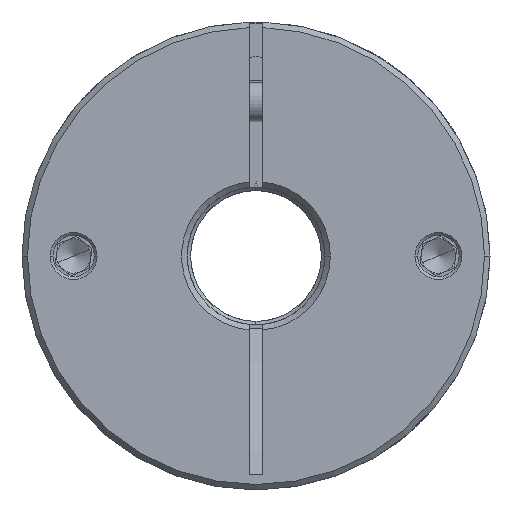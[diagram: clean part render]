
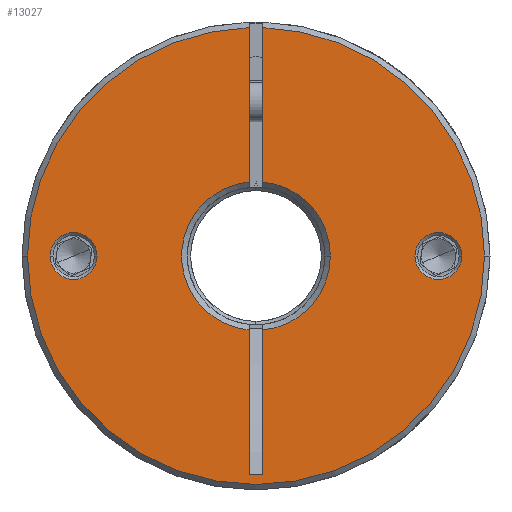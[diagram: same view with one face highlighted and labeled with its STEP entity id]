
A CAD part, front view. The second image highlights one B-rep face of the part: STEP entity #13027.
In plain terms, the highlighted planar face has unit normal (0, -1, 0).
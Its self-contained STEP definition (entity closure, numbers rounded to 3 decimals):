
#38 = EDGE_CURVE ( 'NONE', #5054, #81, #582, .T. ) ;
#81 = VERTEX_POINT ( 'NONE', #6558 ) ;
#327 = DIRECTION ( 'NONE',  ( 0., -1., 0. ) ) ;
#376 = CARTESIAN_POINT ( 'NONE',  ( -2.735, -47.045, 68. ) ) ;
#386 = ORIENTED_EDGE ( 'NONE', *, *, #10544, .T. ) ;
#582 = CIRCLE ( 'NONE', #6469, 33.2 ) ;
#590 = CARTESIAN_POINT ( 'NONE',  ( 30.465, -47.045, 68. ) ) ;
#609 = CARTESIAN_POINT ( 'NONE',  ( -1.735, -47.045, 36.279 ) ) ;
#893 = CARTESIAN_POINT ( 'NONE',  ( -32.635, -47.045, 68. ) ) ;
#1049 = LINE ( 'NONE', #7185, #2537 ) ;
#1335 = EDGE_CURVE ( 'NONE', #12468, #4379, #3639, .T. ) ;
#1768 = CARTESIAN_POINT ( 'NONE',  ( -2.735, -47.045, 68. ) ) ;
#1780 = DIRECTION ( 'NONE',  ( 0., 0., -1. ) ) ;
#1894 = LINE ( 'NONE', #3940, #13245 ) ;
#2021 = AXIS2_PLACEMENT_3D ( 'NONE', #12887, #4381, #4425 ) ;
#2029 = CARTESIAN_POINT ( 'NONE',  ( -2.735, -47.045, 68. ) ) ;
#2053 = EDGE_CURVE ( 'NONE', #9158, #8721, #5413, .T. ) ;
#2097 = DIRECTION ( 'NONE',  ( 1., 0., 0. ) ) ;
#2209 = LINE ( 'NONE', #7154, #5802 ) ;
#2380 = CARTESIAN_POINT ( 'NONE',  ( -25.835, -47.045, 68. ) ) ;
#2504 = DIRECTION ( 'NONE',  ( 0., 0., -1. ) ) ;
#2537 = VECTOR ( 'NONE', #10545, 1000. ) ;
#2644 = LINE ( 'NONE', #2700, #10359 ) ;
#2700 = CARTESIAN_POINT ( 'NONE',  ( -1.735, -47.045, 68. ) ) ;
#2742 = EDGE_CURVE ( 'NONE', #10722, #8253, #2644, .T. ) ;
#2841 = CARTESIAN_POINT ( 'NONE',  ( -3.735, -47.045, 101.185 ) ) ;
#2857 = EDGE_CURVE ( 'NONE', #81, #9158, #5561, .T. ) ;
#2880 = CARTESIAN_POINT ( 'NONE',  ( -29.235, -47.045, 68. ) ) ;
#3142 = CIRCLE ( 'NONE', #8521, 10.8 ) ;
#3349 = CIRCLE ( 'NONE', #3661, 10.8 ) ;
#3639 = CIRCLE ( 'NONE', #4671, 3.4 ) ;
#3647 = DIRECTION ( 'NONE',  ( 0., 0., -1. ) ) ;
#3661 = AXIS2_PLACEMENT_3D ( 'NONE', #8808, #8711, #10844 ) ;
#3923 = CARTESIAN_POINT ( 'NONE',  ( -29.235, -47.045, 68. ) ) ;
#3940 = CARTESIAN_POINT ( 'NONE',  ( -3.735, -47.045, 68. ) ) ;
#4065 = ORIENTED_EDGE ( 'NONE', *, *, #6356, .T. ) ;
#4313 = DIRECTION ( 'NONE',  ( 0., -1., 0. ) ) ;
#4379 = VERTEX_POINT ( 'NONE', #2380 ) ;
#4381 = DIRECTION ( 'NONE',  ( 0., 1., 0. ) ) ;
#4425 = DIRECTION ( 'NONE',  ( 1., 0., 0. ) ) ;
#4563 = ORIENTED_EDGE ( 'NONE', *, *, #6066, .T. ) ;
#4671 = AXIS2_PLACEMENT_3D ( 'NONE', #3923, #10437, #8394 ) ;
#4708 = ORIENTED_EDGE ( 'NONE', *, *, #7015, .T. ) ;
#4832 = ORIENTED_EDGE ( 'NONE', *, *, #8655, .T. ) ;
#4866 = CARTESIAN_POINT ( 'NONE',  ( 8.065, -47.045, 68. ) ) ;
#5054 = VERTEX_POINT ( 'NONE', #2841 ) ;
#5065 = EDGE_LOOP ( 'NONE', ( #10133, #8074 ) ) ;
#5108 = CARTESIAN_POINT ( 'NONE',  ( -3.735, -47.045, 78.754 ) ) ;
#5114 = CARTESIAN_POINT ( 'NONE',  ( -2.735, -47.045, 68. ) ) ;
#5145 = CARTESIAN_POINT ( 'NONE',  ( -2.735, -47.045, 68. ) ) ;
#5171 = EDGE_CURVE ( 'NONE', #7116, #11262, #1894, .T. ) ;
#5204 = DIRECTION ( 'NONE',  ( 0., 1., 0. ) ) ;
#5272 = DIRECTION ( 'NONE',  ( 1., 0., 0. ) ) ;
#5413 = CIRCLE ( 'NONE', #8543, 33.2 ) ;
#5555 = ORIENTED_EDGE ( 'NONE', *, *, #7952, .T. ) ;
#5561 = CIRCLE ( 'NONE', #12271, 33.2 ) ;
#5802 = VECTOR ( 'NONE', #7198, 1000. ) ;
#5937 = DIRECTION ( 'NONE',  ( 0., -1., 0. ) ) ;
#5938 = DIRECTION ( 'NONE',  ( 1., 0., 0. ) ) ;
#6066 = EDGE_CURVE ( 'NONE', #12548, #9129, #3349, .T. ) ;
#6196 = CARTESIAN_POINT ( 'NONE',  ( -1.735, -47.045, 78.754 ) ) ;
#6238 = CIRCLE ( 'NONE', #2021, 3.4 ) ;
#6295 = FACE_BOUND ( 'NONE', #11127, .T. ) ;
#6347 = CARTESIAN_POINT ( 'NONE',  ( -3.735, -47.045, 36.279 ) ) ;
#6356 = EDGE_CURVE ( 'NONE', #8253, #11262, #2209, .T. ) ;
#6469 = AXIS2_PLACEMENT_3D ( 'NONE', #376, #327, #11731 ) ;
#6558 = CARTESIAN_POINT ( 'NONE',  ( -35.935, -47.045, 68. ) ) ;
#6705 = DIRECTION ( 'NONE',  ( 0., 1., 0. ) ) ;
#6830 = LINE ( 'NONE', #11002, #12131 ) ;
#6897 = AXIS2_PLACEMENT_3D ( 'NONE', #5145, #12520, #9452 ) ;
#6899 = EDGE_CURVE ( 'NONE', #5054, #12425, #1049, .T. ) ;
#7015 = EDGE_CURVE ( 'NONE', #8865, #9132, #8759, .T. ) ;
#7043 = EDGE_LOOP ( 'NONE', ( #13234, #12956, #12323, #10295, #386, #4563, #13127, #10464, #4065, #12737, #4832 ) ) ;
#7046 = EDGE_CURVE ( 'NONE', #9129, #10722, #10069, .T. ) ;
#7109 = DIRECTION ( 'NONE',  ( 1., 0., 0. ) ) ;
#7116 = VERTEX_POINT ( 'NONE', #12689 ) ;
#7154 = CARTESIAN_POINT ( 'NONE',  ( -3.735, -47.045, 36.279 ) ) ;
#7185 = CARTESIAN_POINT ( 'NONE',  ( -3.735, -47.045, 68. ) ) ;
#7198 = DIRECTION ( 'NONE',  ( -1., 0., 0. ) ) ;
#7683 = CARTESIAN_POINT ( 'NONE',  ( 23.765, -47.045, 68. ) ) ;
#7776 = DIRECTION ( 'NONE',  ( 1., 0., 0. ) ) ;
#7952 = EDGE_CURVE ( 'NONE', #9132, #8865, #6238, .T. ) ;
#8074 = ORIENTED_EDGE ( 'NONE', *, *, #1335, .T. ) ;
#8253 = VERTEX_POINT ( 'NONE', #609 ) ;
#8353 = CARTESIAN_POINT ( 'NONE',  ( -2.735, -47.045, 68. ) ) ;
#8394 = DIRECTION ( 'NONE',  ( 1., 0., 0. ) ) ;
#8521 = AXIS2_PLACEMENT_3D ( 'NONE', #5114, #5204, #2097 ) ;
#8543 = AXIS2_PLACEMENT_3D ( 'NONE', #8353, #4313, #5272 ) ;
#8655 = EDGE_CURVE ( 'NONE', #7116, #12425, #3142, .T. ) ;
#8711 = DIRECTION ( 'NONE',  ( 0., 1., 0. ) ) ;
#8721 = VERTEX_POINT ( 'NONE', #9524 ) ;
#8759 = CIRCLE ( 'NONE', #11159, 3.4 ) ;
#8808 = CARTESIAN_POINT ( 'NONE',  ( -2.735, -47.045, 68. ) ) ;
#8865 = VERTEX_POINT ( 'NONE', #9795 ) ;
#8933 = FACE_OUTER_BOUND ( 'NONE', #7043, .T. ) ;
#8999 = CIRCLE ( 'NONE', #12083, 3.4 ) ;
#9039 = CARTESIAN_POINT ( 'NONE',  ( 20.365, -47.045, 68. ) ) ;
#9129 = VERTEX_POINT ( 'NONE', #4866 ) ;
#9132 = VERTEX_POINT ( 'NONE', #9039 ) ;
#9142 = CARTESIAN_POINT ( 'NONE',  ( -1.735, -47.045, 57.246 ) ) ;
#9158 = VERTEX_POINT ( 'NONE', #590 ) ;
#9364 = DIRECTION ( 'NONE',  ( 0., -1., 0. ) ) ;
#9452 = DIRECTION ( 'NONE',  ( 1., 0., 0. ) ) ;
#9524 = CARTESIAN_POINT ( 'NONE',  ( -1.735, -47.045, 101.185 ) ) ;
#9795 = CARTESIAN_POINT ( 'NONE',  ( 27.165, -47.045, 68. ) ) ;
#10069 = CIRCLE ( 'NONE', #6897, 10.8 ) ;
#10133 = ORIENTED_EDGE ( 'NONE', *, *, #10185, .T. ) ;
#10185 = EDGE_CURVE ( 'NONE', #4379, #12468, #8999, .T. ) ;
#10295 = ORIENTED_EDGE ( 'NONE', *, *, #2053, .T. ) ;
#10302 = PLANE ( 'NONE',  #10941 ) ;
#10359 = VECTOR ( 'NONE', #3647, 1000. ) ;
#10437 = DIRECTION ( 'NONE',  ( 0., 1., 0. ) ) ;
#10464 = ORIENTED_EDGE ( 'NONE', *, *, #2742, .T. ) ;
#10544 = EDGE_CURVE ( 'NONE', #8721, #12548, #6830, .T. ) ;
#10545 = DIRECTION ( 'NONE',  ( 0., 0., -1. ) ) ;
#10722 = VERTEX_POINT ( 'NONE', #9142 ) ;
#10844 = DIRECTION ( 'NONE',  ( 1., 0., 0. ) ) ;
#10941 = AXIS2_PLACEMENT_3D ( 'NONE', #2029, #9364, #12432 ) ;
#11002 = CARTESIAN_POINT ( 'NONE',  ( -1.735, -47.045, 68. ) ) ;
#11127 = EDGE_LOOP ( 'NONE', ( #4708, #5555 ) ) ;
#11159 = AXIS2_PLACEMENT_3D ( 'NONE', #7683, #6705, #7776 ) ;
#11262 = VERTEX_POINT ( 'NONE', #6347 ) ;
#11731 = DIRECTION ( 'NONE',  ( 1., 0., 0. ) ) ;
#12083 = AXIS2_PLACEMENT_3D ( 'NONE', #2880, #12305, #5938 ) ;
#12131 = VECTOR ( 'NONE', #2504, 1000. ) ;
#12271 = AXIS2_PLACEMENT_3D ( 'NONE', #1768, #5937, #7109 ) ;
#12305 = DIRECTION ( 'NONE',  ( 0., 1., 0. ) ) ;
#12323 = ORIENTED_EDGE ( 'NONE', *, *, #2857, .T. ) ;
#12425 = VERTEX_POINT ( 'NONE', #5108 ) ;
#12432 = DIRECTION ( 'NONE',  ( 1., 0., 0. ) ) ;
#12468 = VERTEX_POINT ( 'NONE', #893 ) ;
#12520 = DIRECTION ( 'NONE',  ( 0., 1., 0. ) ) ;
#12548 = VERTEX_POINT ( 'NONE', #6196 ) ;
#12689 = CARTESIAN_POINT ( 'NONE',  ( -3.735, -47.045, 57.246 ) ) ;
#12737 = ORIENTED_EDGE ( 'NONE', *, *, #5171, .F. ) ;
#12887 = CARTESIAN_POINT ( 'NONE',  ( 23.765, -47.045, 68. ) ) ;
#12956 = ORIENTED_EDGE ( 'NONE', *, *, #38, .T. ) ;
#13027 = ADVANCED_FACE ( 'NONE', ( #6295, #13062, #8933 ), #10302, .T. ) ;
#13062 = FACE_BOUND ( 'NONE', #5065, .T. ) ;
#13127 = ORIENTED_EDGE ( 'NONE', *, *, #7046, .T. ) ;
#13234 = ORIENTED_EDGE ( 'NONE', *, *, #6899, .F. ) ;
#13245 = VECTOR ( 'NONE', #1780, 1000. ) ;
